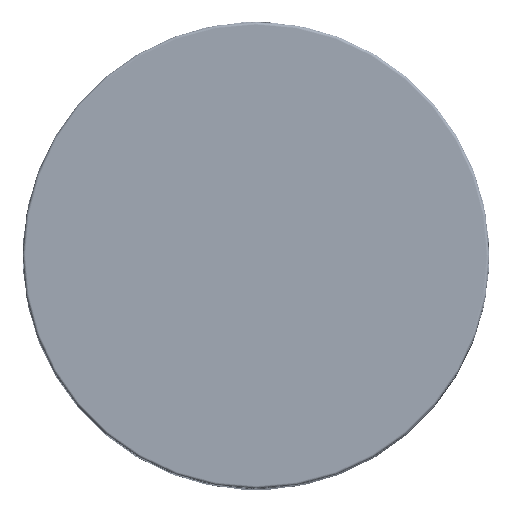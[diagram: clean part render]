
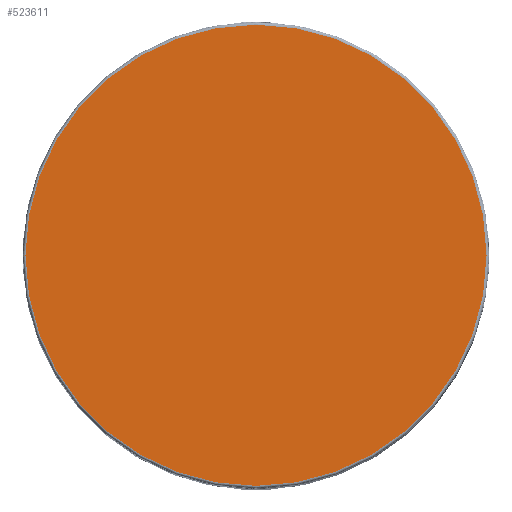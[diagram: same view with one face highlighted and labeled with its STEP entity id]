
A CAD part, top view. The second image highlights one B-rep face of the part: STEP entity #523611.
In plain terms, the highlighted planar face has unit normal (0, 0, 1).
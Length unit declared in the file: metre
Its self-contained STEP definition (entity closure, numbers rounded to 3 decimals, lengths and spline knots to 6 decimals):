
#45903 = CIRCLE ( 'NONE', #750652, 0.108268 ) ;
#67634 = EDGE_LOOP ( 'NONE', ( #449396, #333528 ) ) ;
#142626 = FACE_OUTER_BOUND ( 'NONE', #67634, .T. ) ;
#153147 = CARTESIAN_POINT ( 'NONE',  ( -0.106972, 0.007466, 0.184744 ) ) ;
#167732 = CARTESIAN_POINT ( 'NONE',  ( 0.001296, 0.007466, 0.184744 ) ) ;
#198157 = CIRCLE ( 'NONE', #428422, 0.108268 ) ;
#219060 = DIRECTION ( 'NONE',  ( 0., 0., 1. ) ) ;
#286727 = DIRECTION ( 'NONE',  ( 0., 0., 1. ) ) ;
#333528 = ORIENTED_EDGE ( 'NONE', *, *, #390641, .T. ) ;
#362527 = CARTESIAN_POINT ( 'NONE',  ( 0.001296, 0.007466, 0.184744 ) ) ;
#390129 = DIRECTION ( 'NONE',  ( -1., 0., 0. ) ) ;
#390641 = EDGE_CURVE ( 'NONE', #407950, #572830, #45903, .T. ) ;
#407950 = VERTEX_POINT ( 'NONE', #583240 ) ;
#428422 = AXIS2_PLACEMENT_3D ( 'NONE', #362527, #553260, #811874 ) ;
#449396 = ORIENTED_EDGE ( 'NONE', *, *, #457506, .T. ) ;
#457506 = EDGE_CURVE ( 'NONE', #572830, #407950, #198157, .T. ) ;
#523611 = ADVANCED_FACE ( 'NONE', ( #142626 ), #583837, .T. ) ;
#553260 = DIRECTION ( 'NONE',  ( 0., 0., 1. ) ) ;
#572830 = VERTEX_POINT ( 'NONE', #153147 ) ;
#583240 = CARTESIAN_POINT ( 'NONE',  ( 0.109563, 0.007466, 0.184744 ) ) ;
#583837 = PLANE ( 'NONE',  #613298 ) ;
#613298 = AXIS2_PLACEMENT_3D ( 'NONE', #167732, #286727, #812281 ) ;
#750652 = AXIS2_PLACEMENT_3D ( 'NONE', #771775, #219060, #390129 ) ;
#771775 = CARTESIAN_POINT ( 'NONE',  ( 0.001296, 0.007466, 0.184744 ) ) ;
#811874 = DIRECTION ( 'NONE',  ( -1., 0., 0. ) ) ;
#812281 = DIRECTION ( 'NONE',  ( -1., 0., 0. ) ) ;
